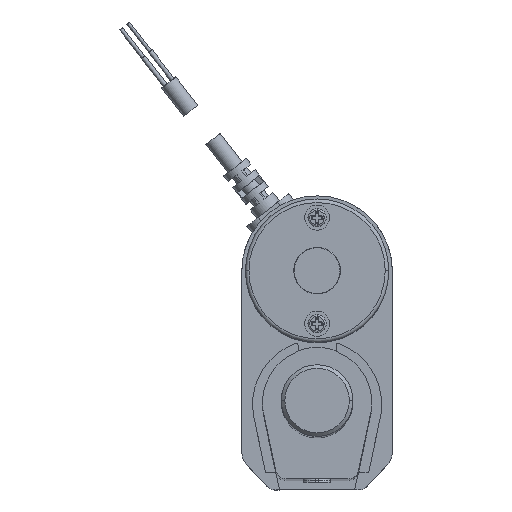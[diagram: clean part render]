
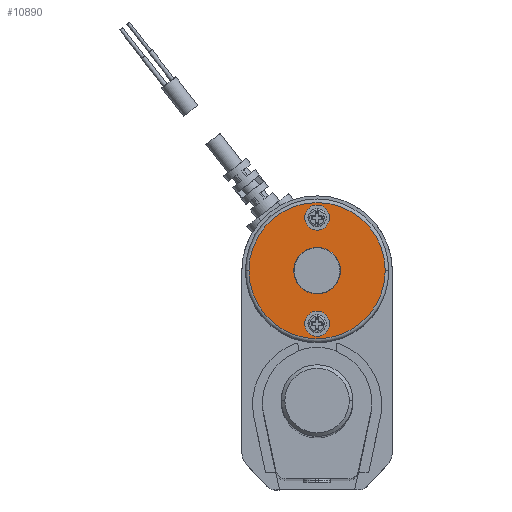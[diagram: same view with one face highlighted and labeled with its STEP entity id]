
A CAD part, top view. The second image highlights one B-rep face of the part: STEP entity #10890.
In plain terms, the highlighted planar face has unit normal (0, 0, 1).
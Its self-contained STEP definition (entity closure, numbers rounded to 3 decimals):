
#118 = ORIENTED_EDGE ( 'NONE', *, *, #4576, .F. ) ;
#465 = VERTEX_POINT ( 'NONE', #3384 ) ;
#1396 = CARTESIAN_POINT ( 'NONE',  ( 0., 6.354, 95. ) ) ;
#1750 = AXIS2_PLACEMENT_3D ( 'NONE', #7536, #6191, #6242 ) ;
#1895 = DIRECTION ( 'NONE',  ( 0., 0., 1. ) ) ;
#1907 = AXIS2_PLACEMENT_3D ( 'NONE', #9338, #13036, #5808 ) ;
#2478 = CARTESIAN_POINT ( 'NONE',  ( -1.5, 35.954, 95. ) ) ;
#2545 = FACE_BOUND ( 'NONE', #8972, .T. ) ;
#2756 = CIRCLE ( 'NONE', #4273, 1.5 ) ;
#2949 = EDGE_LOOP ( 'NONE', ( #3531, #3961 ) ) ;
#3200 = CARTESIAN_POINT ( 'NONE',  ( 19., 21.154, 95. ) ) ;
#3318 = AXIS2_PLACEMENT_3D ( 'NONE', #5211, #8854, #13799 ) ;
#3349 = DIRECTION ( 'NONE',  ( -1., 0., 0. ) ) ;
#3384 = CARTESIAN_POINT ( 'NONE',  ( -19., 21.154, 95. ) ) ;
#3498 = CARTESIAN_POINT ( 'NONE',  ( -1.5, 6.354, 95. ) ) ;
#3531 = ORIENTED_EDGE ( 'NONE', *, *, #8723, .T. ) ;
#3961 = ORIENTED_EDGE ( 'NONE', *, *, #12988, .T. ) ;
#4196 = ORIENTED_EDGE ( 'NONE', *, *, #7604, .F. ) ;
#4273 = AXIS2_PLACEMENT_3D ( 'NONE', #11843, #8253, #3349 ) ;
#4576 = EDGE_CURVE ( 'NONE', #7614, #13905, #2756, .T. ) ;
#4595 = EDGE_LOOP ( 'NONE', ( #118, #10499 ) ) ;
#4849 = CIRCLE ( 'NONE', #1907, 19. ) ;
#4925 = CIRCLE ( 'NONE', #1750, 19. ) ;
#5064 = VERTEX_POINT ( 'NONE', #10262 ) ;
#5211 = CARTESIAN_POINT ( 'NONE',  ( 0., 21.154, 95. ) ) ;
#5355 = EDGE_CURVE ( 'NONE', #8861, #5064, #10660, .T. ) ;
#5369 = PLANE ( 'NONE',  #3318 ) ;
#5808 = DIRECTION ( 'NONE',  ( -1., 0., 0. ) ) ;
#5916 = CARTESIAN_POINT ( 'NONE',  ( 1.5, 35.954, 95. ) ) ;
#5929 = DIRECTION ( 'NONE',  ( 0., 0., 1. ) ) ;
#6191 = DIRECTION ( 'NONE',  ( 0., 0., 1. ) ) ;
#6242 = DIRECTION ( 'NONE',  ( -1., 0., 0. ) ) ;
#7536 = CARTESIAN_POINT ( 'NONE',  ( 0., 21.154, 95. ) ) ;
#7604 = EDGE_CURVE ( 'NONE', #5064, #8861, #14542, .T. ) ;
#7614 = VERTEX_POINT ( 'NONE', #2478 ) ;
#7866 = CARTESIAN_POINT ( 'NONE',  ( 0., 35.954, 95. ) ) ;
#8253 = DIRECTION ( 'NONE',  ( 0., 0., 1. ) ) ;
#8723 = EDGE_CURVE ( 'NONE', #465, #10276, #4849, .T. ) ;
#8854 = DIRECTION ( 'NONE',  ( 0., 0., 1. ) ) ;
#8861 = VERTEX_POINT ( 'NONE', #3498 ) ;
#8946 = FACE_BOUND ( 'NONE', #4595, .T. ) ;
#8972 = EDGE_LOOP ( 'NONE', ( #14369, #4196 ) ) ;
#9323 = AXIS2_PLACEMENT_3D ( 'NONE', #11930, #5929, #15558 ) ;
#9338 = CARTESIAN_POINT ( 'NONE',  ( 0., 21.154, 95. ) ) ;
#10262 = CARTESIAN_POINT ( 'NONE',  ( 1.5, 6.354, 95. ) ) ;
#10276 = VERTEX_POINT ( 'NONE', #3200 ) ;
#10327 = DIRECTION ( 'NONE',  ( -1., 0., 0. ) ) ;
#10499 = ORIENTED_EDGE ( 'NONE', *, *, #11957, .F. ) ;
#10660 = CIRCLE ( 'NONE', #9323, 1.5 ) ;
#10890 = ADVANCED_FACE ( 'NONE', ( #8946, #2545, #14964 ), #5369, .T. ) ;
#11123 = AXIS2_PLACEMENT_3D ( 'NONE', #7866, #1895, #10327 ) ;
#11843 = CARTESIAN_POINT ( 'NONE',  ( 0., 35.954, 95. ) ) ;
#11930 = CARTESIAN_POINT ( 'NONE',  ( 0., 6.354, 95. ) ) ;
#11957 = EDGE_CURVE ( 'NONE', #13905, #7614, #12490, .T. ) ;
#12173 = DIRECTION ( 'NONE',  ( 0., 0., 1. ) ) ;
#12490 = CIRCLE ( 'NONE', #11123, 1.5 ) ;
#12679 = AXIS2_PLACEMENT_3D ( 'NONE', #1396, #12173, #13289 ) ;
#12988 = EDGE_CURVE ( 'NONE', #10276, #465, #4925, .T. ) ;
#13036 = DIRECTION ( 'NONE',  ( 0., 0., 1. ) ) ;
#13289 = DIRECTION ( 'NONE',  ( -1., 0., 0. ) ) ;
#13799 = DIRECTION ( 'NONE',  ( -1., 0., 0. ) ) ;
#13905 = VERTEX_POINT ( 'NONE', #5916 ) ;
#14369 = ORIENTED_EDGE ( 'NONE', *, *, #5355, .F. ) ;
#14542 = CIRCLE ( 'NONE', #12679, 1.5 ) ;
#14964 = FACE_OUTER_BOUND ( 'NONE', #2949, .T. ) ;
#15558 = DIRECTION ( 'NONE',  ( -1., 0., 0. ) ) ;
